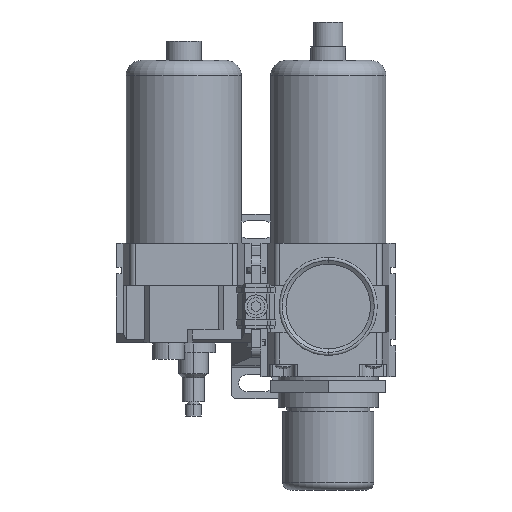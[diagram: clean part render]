
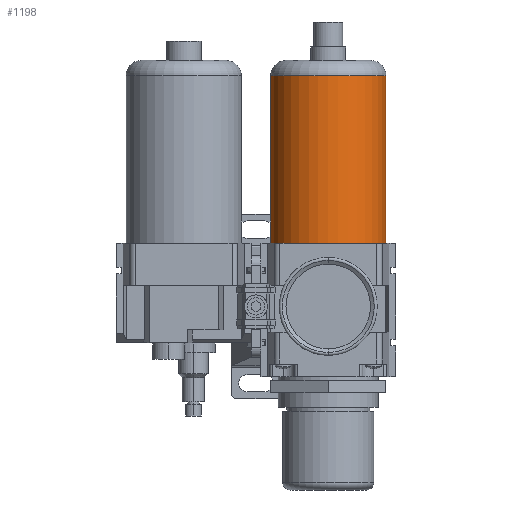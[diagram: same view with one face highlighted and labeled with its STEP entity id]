
A CAD part, front view. The second image highlights one B-rep face of the part: STEP entity #1198.
In plain terms, the highlighted cylindrical face has radius 30 mm (diameter 60 mm), a partial arc.
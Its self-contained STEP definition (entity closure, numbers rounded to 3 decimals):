
#600 = LINE ( 'NONE', #4550, #13083 ) ;
#982 = DIRECTION ( 'NONE',  ( 0., 0., -1. ) ) ;
#1122 = CARTESIAN_POINT ( 'NONE',  ( -30., 0., 87. ) ) ;
#1198 = ADVANCED_FACE ( 'NONE', ( #4364 ), #7321, .T. ) ;
#1265 = ORIENTED_EDGE ( 'NONE', *, *, #1990, .T. ) ;
#1670 = ORIENTED_EDGE ( 'NONE', *, *, #2256, .F. ) ;
#1977 = CIRCLE ( 'NONE', #14520, 30. ) ;
#1990 = EDGE_CURVE ( 'NONE', #6134, #12270, #1977, .T. ) ;
#2219 = EDGE_CURVE ( 'NONE', #7742, #6134, #9638, .T. ) ;
#2241 = ORIENTED_EDGE ( 'NONE', *, *, #2219, .T. ) ;
#2256 = EDGE_CURVE ( 'NONE', #7742, #14222, #6637, .T. ) ;
#3259 = AXIS2_PLACEMENT_3D ( 'NONE', #7455, #982, #3523 ) ;
#3523 = DIRECTION ( 'NONE',  ( 1., 0., 0. ) ) ;
#3889 = CARTESIAN_POINT ( 'NONE',  ( 30., 0., 0. ) ) ;
#4364 = FACE_OUTER_BOUND ( 'NONE', #4995, .T. ) ;
#4550 = CARTESIAN_POINT ( 'NONE',  ( -30., 0., -500. ) ) ;
#4995 = EDGE_LOOP ( 'NONE', ( #5100, #1670, #2241, #1265 ) ) ;
#5100 = ORIENTED_EDGE ( 'NONE', *, *, #5379, .F. ) ;
#5379 = EDGE_CURVE ( 'NONE', #14222, #12270, #600, .T. ) ;
#5933 = DIRECTION ( 'NONE',  ( 0., 0., 1. ) ) ;
#6134 = VERTEX_POINT ( 'NONE', #15474 ) ;
#6637 = CIRCLE ( 'NONE', #3259, 30. ) ;
#7321 = CYLINDRICAL_SURFACE ( 'NONE', #7485, 30. ) ;
#7455 = CARTESIAN_POINT ( 'NONE',  ( 0., 0., 0. ) ) ;
#7485 = AXIS2_PLACEMENT_3D ( 'NONE', #9775, #5933, #8646 ) ;
#7742 = VERTEX_POINT ( 'NONE', #3889 ) ;
#8169 = DIRECTION ( 'NONE',  ( 0., 0., -1. ) ) ;
#8646 = DIRECTION ( 'NONE',  ( 1., 0., 0. ) ) ;
#8661 = DIRECTION ( 'NONE',  ( 0., 0., 1. ) ) ;
#9224 = CARTESIAN_POINT ( 'NONE',  ( 0., 0., 87. ) ) ;
#9638 = LINE ( 'NONE', #16348, #16097 ) ;
#9729 = DIRECTION ( 'NONE',  ( 0., 0., 1. ) ) ;
#9775 = CARTESIAN_POINT ( 'NONE',  ( 0., 0., -500. ) ) ;
#9991 = CARTESIAN_POINT ( 'NONE',  ( -30., 0., 0. ) ) ;
#12270 = VERTEX_POINT ( 'NONE', #1122 ) ;
#13083 = VECTOR ( 'NONE', #8661, 1000. ) ;
#14222 = VERTEX_POINT ( 'NONE', #9991 ) ;
#14520 = AXIS2_PLACEMENT_3D ( 'NONE', #9224, #8169, #14605 ) ;
#14605 = DIRECTION ( 'NONE',  ( 1., 0., 0. ) ) ;
#15474 = CARTESIAN_POINT ( 'NONE',  ( 30., 0., 87. ) ) ;
#16097 = VECTOR ( 'NONE', #9729, 1000. ) ;
#16348 = CARTESIAN_POINT ( 'NONE',  ( 30., 0., -500. ) ) ;
